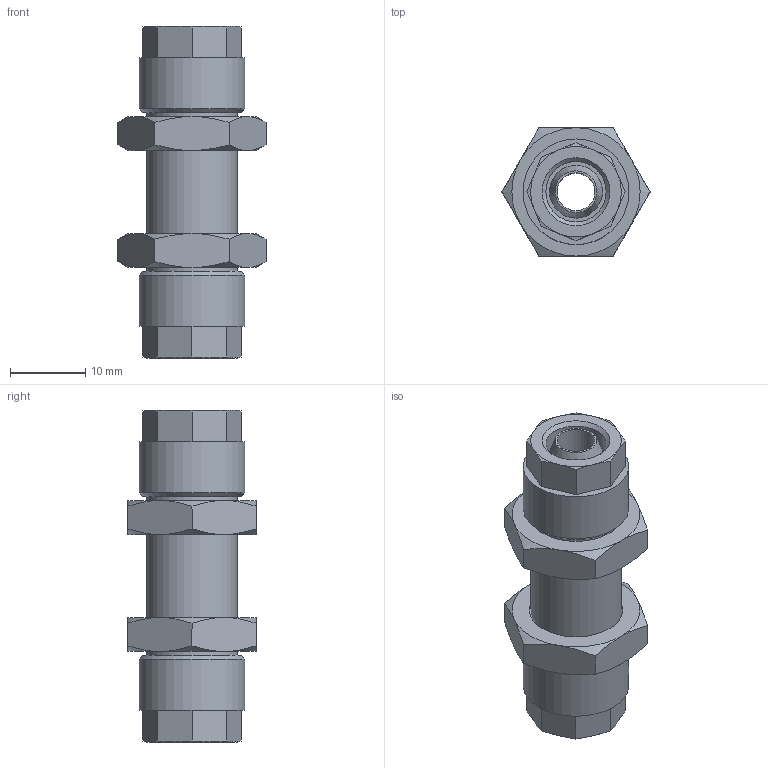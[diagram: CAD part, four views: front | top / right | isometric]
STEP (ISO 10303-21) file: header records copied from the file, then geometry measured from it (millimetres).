
FILE_DESCRIPTION(/* description */ (''),/* implementation_level */ '2;1');
FILE_NAME(/* name */ '10506_304_86_17.07.17',/* time_stamp */ '2017-07-17T13:13:41+02:00',/* author */ (''),/* organization */ (''),/* preprocessor_version */ 'ST-DEVELOPER v16.5',/* originating_system */ 'HiCAD 2016 2102.2 Build 618',/* authorisation */ '');
FILE_SCHEMA (('AUTOMOTIVE_DESIGN { 1 0 10303 214 1 1 1 1 }'));
Length unit declared in the file: millimetre
Products named in the file (6): Root; R10506; Kontermutter; 17006
Assembly tree (5 placements, depth 2):
  Root
    R10506
    Kontermutter
    Kontermutter
    17006
    17006
Bounding box: 19.63 x 17 x 44 mm (x, y, z)
Volume: 6092 mm3; surface area: 5672 mm2
Topology: 5 solids, 5 shells, 114 faces, 250 edges, 154 vertices
Faces by surface type: cone 56, plane 44, cylinder 12, torus 2
Full cylindrical faces by diameter (mm): 5 x1, 6.5 x2, 8 x2, 10.773 x4, 12 x1, 14 x2
Entity records: 5100 total; most frequent: DIRECTION 616, CARTESIAN_POINT 470, PRESENTATION_STYLE_ASSIGNMENT 417, COLOUR_RGB 413, DRAUGHTING_PRE_DEFINED_CURVE_FONT 412, CURVE_STYLE 412, OVER_RIDING_STYLED_ITEM 412, ORIENTED_EDGE 412
